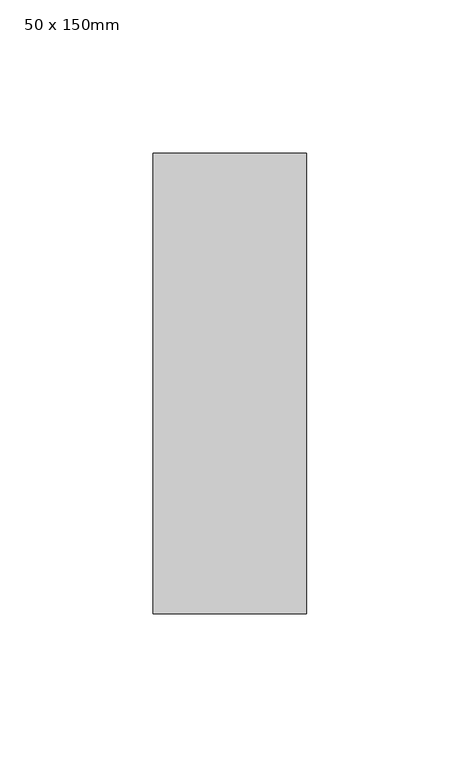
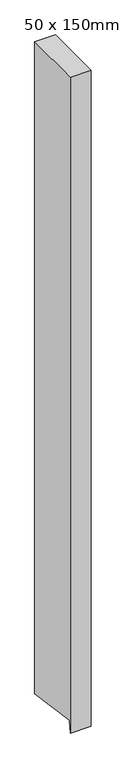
"""IFC4 building model written with IfcOpenShell, lengths in millimetres: member geometry, 矩形竖梃 : 50 x 150mm."""

from ifc_helpers import new_model, si_unit, frame, origin, place, context, project, spatial, polyline, outline, extrude, source, transform, mapped, element, save


def member_50_x_150mm_b0936cf7(model_context):
    return source(origin(), model_context, "Body", "SweptSolid", [
        extrude(outline(polyline([(-75.0, 0.0), (75.0, 0.0), (75.0, -1672.9305333), (-70.9111958, -1652.9346667), (-75.0, -1682.7709485), (-75.0, 0.0)])), frame((-50.0, 0.0, 0.0), z_axis=(1.0, 0.0, 0.0), x_axis=(0.0, 1.0, 0.0)), (0.0, 0.0, 1.0), 50.0),
    ])


if __name__ == "__main__":
    model = new_model("IFC4")
    model_context = context("Model", 3, world=origin())
    ifc_project = project(units=[si_unit("LENGTHUNIT", "METRE", prefix="MILLI")], contexts=[model_context])
    site = spatial("IfcSite", under=ifc_project)
    building = spatial("IfcBuilding", under=site)
    placement = place(None, origin())
    member_50_x_150mm_shape = member_50_x_150mm_b0936cf7(model_context)
    element("IfcMember", 1, ObjectType="矩形竖梃 : 50 x 150mm", at=placement, inside=building, context=model_context, shape_type="MappedRepresentation", body=[
        mapped(member_50_x_150mm_shape, transform((0.0, 0.0, 0.0), x_axis=(1.0, 0.0, 0.0), y_axis=(0.0, 1.0, 0.0), z_axis=(0.0, 0.0, 1.0))),
    ])
    save(model, "model.ifc")
